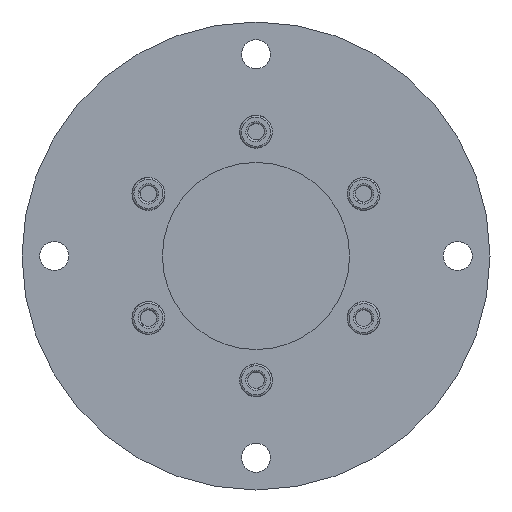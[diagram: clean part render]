
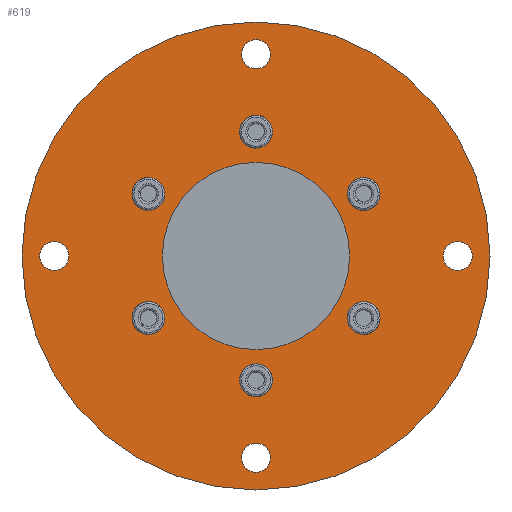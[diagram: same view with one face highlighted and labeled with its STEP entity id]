
A CAD part, front view. The second image highlights one B-rep face of the part: STEP entity #619.
In plain terms, the highlighted planar face has unit normal (0, -1, 0).
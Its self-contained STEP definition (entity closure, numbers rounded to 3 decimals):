
#18=CARTESIAN_POINT('',(28.242,3.0,19.25));
#19=VERTEX_POINT('',#18);
#26=CARTESIAN_POINT('',(35.892,3.0,14.833));
#27=VERTEX_POINT('',#26);
#28=CARTESIAN_POINT('',(33.342,3.0,19.25));
#29=DIRECTION('',(0.0,-1.0,0.0));
#30=DIRECTION('',(0.5,0.0,-0.866));
#31=AXIS2_PLACEMENT_3D('',#28,#29,#30);
#32=CIRCLE('',#31,5.1);
#33=EDGE_CURVE('no 1255',#19,#27,#32,.T.);
#35=CARTESIAN_POINT('',(38.442,3.0,19.25));
#36=VERTEX_POINT('',#35);
#37=CARTESIAN_POINT('',(33.342,3.0,19.25));
#38=DIRECTION('',(0.0,-1.0,0.0));
#39=DIRECTION('',(0.5,0.0,-0.866));
#40=AXIS2_PLACEMENT_3D('',#37,#38,#39);
#41=CIRCLE('',#40,5.1);
#42=EDGE_CURVE('no 1261',#27,#36,#41,.T.);
#78=CARTESIAN_POINT('',(28.242,3.0,-19.25));
#79=VERTEX_POINT('',#78);
#86=CARTESIAN_POINT('',(30.792,3.0,-23.667));
#87=VERTEX_POINT('',#86);
#88=CARTESIAN_POINT('',(33.342,3.0,-19.25));
#89=DIRECTION('',(0.0,-1.0,-0.0));
#90=DIRECTION('',(-0.5,0.0,-0.866));
#91=AXIS2_PLACEMENT_3D('',#88,#89,#90);
#92=CIRCLE('',#91,5.1);
#93=EDGE_CURVE('no 1295',#79,#87,#92,.T.);
#95=CARTESIAN_POINT('',(38.442,3.0,-19.25));
#96=VERTEX_POINT('',#95);
#97=CARTESIAN_POINT('',(33.342,3.0,-19.25));
#98=DIRECTION('',(0.0,-1.0,-0.0));
#99=DIRECTION('',(-0.5,0.0,-0.866));
#100=AXIS2_PLACEMENT_3D('',#97,#98,#99);
#101=CIRCLE('',#100,5.1);
#102=EDGE_CURVE('no 1301',#87,#96,#101,.T.);
#138=CARTESIAN_POINT('',(-5.1,3.0,-38.5));
#139=VERTEX_POINT('',#138);
#146=CARTESIAN_POINT('',(5.1,3.0,-38.5));
#147=VERTEX_POINT('',#146);
#148=CARTESIAN_POINT('',(0.0,3.0,-38.5));
#149=DIRECTION('',(0.0,-1.0,-0.0));
#150=DIRECTION('',(-1.0,0.0,-0.0));
#151=AXIS2_PLACEMENT_3D('',#148,#149,#150);
#152=CIRCLE('',#151,5.1);
#153=EDGE_CURVE('no 1335',#139,#147,#152,.T.);
#189=CARTESIAN_POINT('',(-38.442,3.0,-19.25));
#190=VERTEX_POINT('',#189);
#197=CARTESIAN_POINT('',(-28.242,3.0,-19.25));
#198=VERTEX_POINT('',#197);
#199=CARTESIAN_POINT('',(-33.342,3.0,-19.25));
#200=DIRECTION('',(0.0,-1.0,0.0));
#201=DIRECTION('',(-0.5,0.0,0.866));
#202=AXIS2_PLACEMENT_3D('',#199,#200,#201);
#203=CIRCLE('',#202,5.1);
#204=EDGE_CURVE('no 1369',#190,#198,#203,.T.);
#240=CARTESIAN_POINT('',(-38.442,3.0,19.25));
#241=VERTEX_POINT('',#240);
#248=CARTESIAN_POINT('',(-28.242,3.0,19.25));
#249=VERTEX_POINT('',#248);
#250=CARTESIAN_POINT('',(-33.342,3.0,19.25));
#251=DIRECTION('',(0.0,-1.0,0.0));
#252=DIRECTION('',(0.5,0.0,0.866));
#253=AXIS2_PLACEMENT_3D('',#250,#251,#252);
#254=CIRCLE('',#253,5.1);
#255=EDGE_CURVE('no 1403',#241,#249,#254,.T.);
#291=CARTESIAN_POINT('',(-5.1,3.0,38.5));
#292=VERTEX_POINT('',#291);
#299=CARTESIAN_POINT('',(5.1,3.0,38.5));
#300=VERTEX_POINT('',#299);
#301=CARTESIAN_POINT('',(0.0,3.0,38.5));
#302=DIRECTION('',(0.0,-1.0,0.0));
#303=DIRECTION('',(1.0,0.0,-0.0));
#304=AXIS2_PLACEMENT_3D('',#301,#302,#303);
#305=CIRCLE('',#304,5.1);
#306=EDGE_CURVE('no 1437',#292,#300,#305,.T.);
#384=CARTESIAN_POINT('',(-72.5,3.0,0.0));
#385=VERTEX_POINT('',#384);
#401=CARTESIAN_POINT('',(72.5,3.0,-0.0));
#402=VERTEX_POINT('',#401);
#409=CARTESIAN_POINT('',(0.0,3.0,0.0));
#410=DIRECTION('',(0.0,-1.0,0.0));
#411=DIRECTION('',(1.0,0.0,-0.0));
#412=AXIS2_PLACEMENT_3D('',#409,#410,#411);
#413=CIRCLE('',#412,72.5);
#414=EDGE_CURVE('no 1509',#385,#402,#413,.T.);
#424=ORIENTED_EDGE('',*,*,#33,.F.);
#425=CARTESIAN_POINT('',(33.342,3.0,19.25));
#426=DIRECTION('',(0.0,-1.0,0.0));
#427=DIRECTION('',(0.5,0.0,-0.866));
#428=AXIS2_PLACEMENT_3D('',#425,#426,#427);
#429=CIRCLE('',#428,5.1);
#430=EDGE_CURVE('no 1518',#36,#19,#429,.T.);
#431=ORIENTED_EDGE('',*,*,#430,.F.);
#432=ORIENTED_EDGE('',*,*,#42,.F.);
#433=EDGE_LOOP('',(#424,#431,#432));
#434=FACE_BOUND('',#433,.T.);
#435=ORIENTED_EDGE('',*,*,#93,.F.);
#436=CARTESIAN_POINT('',(33.342,3.0,-19.25));
#437=DIRECTION('',(0.0,-1.0,-0.0));
#438=DIRECTION('',(-0.5,0.0,-0.866));
#439=AXIS2_PLACEMENT_3D('',#436,#437,#438);
#440=CIRCLE('',#439,5.1);
#441=EDGE_CURVE('no 1527',#96,#79,#440,.T.);
#442=ORIENTED_EDGE('',*,*,#441,.F.);
#443=ORIENTED_EDGE('',*,*,#102,.F.);
#444=EDGE_LOOP('',(#435,#442,#443));
#445=FACE_BOUND('',#444,.T.);
#446=CARTESIAN_POINT('',(0.0,3.0,-38.5));
#447=DIRECTION('',(0.0,-1.0,-0.0));
#448=DIRECTION('',(-1.0,0.0,-0.0));
#449=AXIS2_PLACEMENT_3D('',#446,#447,#448);
#450=CIRCLE('',#449,5.1);
#451=EDGE_CURVE('no 1534',#147,#139,#450,.T.);
#452=ORIENTED_EDGE('',*,*,#451,.F.);
#453=ORIENTED_EDGE('',*,*,#153,.F.);
#454=EDGE_LOOP('',(#452,#453));
#455=FACE_BOUND('',#454,.T.);
#456=CARTESIAN_POINT('',(-35.892,3.0,-14.833));
#457=VERTEX_POINT('',#456);
#458=CARTESIAN_POINT('',(-33.342,3.0,-19.25));
#459=DIRECTION('',(0.0,-1.0,0.0));
#460=DIRECTION('',(-0.5,0.0,0.866));
#461=AXIS2_PLACEMENT_3D('',#458,#459,#460);
#462=CIRCLE('',#461,5.1);
#463=EDGE_CURVE('no 1543',#198,#457,#462,.T.);
#464=ORIENTED_EDGE('',*,*,#463,.F.);
#465=ORIENTED_EDGE('',*,*,#204,.F.);
#466=CARTESIAN_POINT('',(-33.342,3.0,-19.25));
#467=DIRECTION('',(0.0,-1.0,0.0));
#468=DIRECTION('',(-0.5,0.0,0.866));
#469=AXIS2_PLACEMENT_3D('',#466,#467,#468);
#470=CIRCLE('',#469,5.1);
#471=EDGE_CURVE('no 1549',#457,#190,#470,.T.);
#472=ORIENTED_EDGE('',*,*,#471,.F.);
#473=EDGE_LOOP('',(#464,#465,#472));
#474=FACE_BOUND('',#473,.T.);
#475=CARTESIAN_POINT('',(-30.792,3.0,23.667));
#476=VERTEX_POINT('',#475);
#477=CARTESIAN_POINT('',(-33.342,3.0,19.25));
#478=DIRECTION('',(0.0,-1.0,0.0));
#479=DIRECTION('',(0.5,0.0,0.866));
#480=AXIS2_PLACEMENT_3D('',#477,#478,#479);
#481=CIRCLE('',#480,5.1);
#482=EDGE_CURVE('no 1556',#249,#476,#481,.T.);
#483=ORIENTED_EDGE('',*,*,#482,.F.);
#484=ORIENTED_EDGE('',*,*,#255,.F.);
#485=CARTESIAN_POINT('',(-33.342,3.0,19.25));
#486=DIRECTION('',(0.0,-1.0,0.0));
#487=DIRECTION('',(0.5,0.0,0.866));
#488=AXIS2_PLACEMENT_3D('',#485,#486,#487);
#489=CIRCLE('',#488,5.1);
#490=EDGE_CURVE('no 1562',#476,#241,#489,.T.);
#491=ORIENTED_EDGE('',*,*,#490,.F.);
#492=EDGE_LOOP('',(#483,#484,#491));
#493=FACE_BOUND('',#492,.T.);
#494=ORIENTED_EDGE('',*,*,#306,.F.);
#495=CARTESIAN_POINT('',(0.0,3.0,38.5));
#496=DIRECTION('',(0.0,-1.0,0.0));
#497=DIRECTION('',(1.0,0.0,-0.0));
#498=AXIS2_PLACEMENT_3D('',#495,#496,#497);
#499=CIRCLE('',#498,5.1);
#500=EDGE_CURVE('no 1569',#300,#292,#499,.T.);
#501=ORIENTED_EDGE('',*,*,#500,.F.);
#502=EDGE_LOOP('',(#494,#501));
#503=FACE_BOUND('',#502,.T.);
#504=CARTESIAN_POINT('',(58.0,3.0,0.0));
#505=VERTEX_POINT('',#504);
#506=CARTESIAN_POINT('',(67.0,3.0,0.0));
#507=VERTEX_POINT('',#506);
#508=CARTESIAN_POINT('',(62.5,3.0,0.0));
#509=DIRECTION('',(0.0,-1.0,0.0));
#510=DIRECTION('',(1.0,0.0,-0.0));
#511=AXIS2_PLACEMENT_3D('',#508,#509,#510);
#512=CIRCLE('',#511,4.5);
#513=EDGE_CURVE('no 1578',#505,#507,#512,.T.);
#514=ORIENTED_EDGE('',*,*,#513,.F.);
#515=CARTESIAN_POINT('',(62.5,3.0,0.0));
#516=DIRECTION('',(0.0,-1.0,0.0));
#517=DIRECTION('',(1.0,0.0,-0.0));
#518=AXIS2_PLACEMENT_3D('',#515,#516,#517);
#519=CIRCLE('',#518,4.5);
#520=EDGE_CURVE('no 1582',#507,#505,#519,.T.);
#521=ORIENTED_EDGE('',*,*,#520,.F.);
#522=EDGE_LOOP('',(#514,#521));
#523=FACE_BOUND('',#522,.T.);
#524=CARTESIAN_POINT('',(-4.5,3.0,-62.5));
#525=VERTEX_POINT('',#524);
#526=CARTESIAN_POINT('',(4.5,3.0,-62.5));
#527=VERTEX_POINT('',#526);
#528=CARTESIAN_POINT('',(0.0,3.0,-62.5));
#529=DIRECTION('',(0.0,-1.0,0.0));
#530=DIRECTION('',(1.0,0.0,-0.0));
#531=AXIS2_PLACEMENT_3D('',#528,#529,#530);
#532=CIRCLE('',#531,4.5);
#533=EDGE_CURVE('no 1591',#525,#527,#532,.T.);
#534=ORIENTED_EDGE('',*,*,#533,.F.);
#535=CARTESIAN_POINT('',(0.0,3.0,-62.5));
#536=DIRECTION('',(0.0,-1.0,0.0));
#537=DIRECTION('',(1.0,0.0,-0.0));
#538=AXIS2_PLACEMENT_3D('',#535,#536,#537);
#539=CIRCLE('',#538,4.5);
#540=EDGE_CURVE('no 1595',#527,#525,#539,.T.);
#541=ORIENTED_EDGE('',*,*,#540,.F.);
#542=EDGE_LOOP('',(#534,#541));
#543=FACE_BOUND('',#542,.T.);
#544=CARTESIAN_POINT('',(-67.0,3.0,-0.0));
#545=VERTEX_POINT('',#544);
#546=CARTESIAN_POINT('',(-58.0,3.0,-0.0));
#547=VERTEX_POINT('',#546);
#548=CARTESIAN_POINT('',(-62.5,3.0,-0.0));
#549=DIRECTION('',(0.0,-1.0,0.0));
#550=DIRECTION('',(1.0,0.0,-0.0));
#551=AXIS2_PLACEMENT_3D('',#548,#549,#550);
#552=CIRCLE('',#551,4.5);
#553=EDGE_CURVE('no 1604',#545,#547,#552,.T.);
#554=ORIENTED_EDGE('',*,*,#553,.F.);
#555=CARTESIAN_POINT('',(-62.5,3.0,-0.0));
#556=DIRECTION('',(0.0,-1.0,0.0));
#557=DIRECTION('',(1.0,0.0,-0.0));
#558=AXIS2_PLACEMENT_3D('',#555,#556,#557);
#559=CIRCLE('',#558,4.5);
#560=EDGE_CURVE('no 1608',#547,#545,#559,.T.);
#561=ORIENTED_EDGE('',*,*,#560,.F.);
#562=EDGE_LOOP('',(#554,#561));
#563=FACE_BOUND('',#562,.T.);
#564=CARTESIAN_POINT('',(-4.5,3.0,62.5));
#565=VERTEX_POINT('',#564);
#566=CARTESIAN_POINT('',(4.5,3.0,62.5));
#567=VERTEX_POINT('',#566);
#568=CARTESIAN_POINT('',(0.0,3.0,62.5));
#569=DIRECTION('',(0.0,-1.0,0.0));
#570=DIRECTION('',(1.0,0.0,-0.0));
#571=AXIS2_PLACEMENT_3D('',#568,#569,#570);
#572=CIRCLE('',#571,4.5);
#573=EDGE_CURVE('no 1617',#565,#567,#572,.T.);
#574=ORIENTED_EDGE('',*,*,#573,.F.);
#575=CARTESIAN_POINT('',(0.0,3.0,62.5));
#576=DIRECTION('',(0.0,-1.0,0.0));
#577=DIRECTION('',(1.0,0.0,-0.0));
#578=AXIS2_PLACEMENT_3D('',#575,#576,#577);
#579=CIRCLE('',#578,4.5);
#580=EDGE_CURVE('no 1621',#567,#565,#579,.T.);
#581=ORIENTED_EDGE('',*,*,#580,.F.);
#582=EDGE_LOOP('',(#574,#581));
#583=FACE_BOUND('',#582,.T.);
#584=CARTESIAN_POINT('',(-29.0,3.0,0.0));
#585=VERTEX_POINT('',#584);
#586=CARTESIAN_POINT('',(29.0,3.0,-0.0));
#587=VERTEX_POINT('',#586);
#588=CARTESIAN_POINT('',(0.0,3.0,0.0));
#589=DIRECTION('',(0.0,-1.0,0.0));
#590=DIRECTION('',(1.0,0.0,-0.0));
#591=AXIS2_PLACEMENT_3D('',#588,#589,#590);
#592=CIRCLE('',#591,29.0);
#593=EDGE_CURVE('no 1630',#585,#587,#592,.T.);
#594=ORIENTED_EDGE('',*,*,#593,.F.);
#595=CARTESIAN_POINT('',(0.0,3.0,0.0));
#596=DIRECTION('',(0.0,-1.0,0.0));
#597=DIRECTION('',(1.0,0.0,-0.0));
#598=AXIS2_PLACEMENT_3D('',#595,#596,#597);
#599=CIRCLE('',#598,29.0);
#600=EDGE_CURVE('no 1634',#587,#585,#599,.T.);
#601=ORIENTED_EDGE('',*,*,#600,.F.);
#602=EDGE_LOOP('',(#594,#601));
#603=FACE_BOUND('',#602,.T.);
#604=CARTESIAN_POINT('',(0.0,3.0,0.0));
#605=DIRECTION('',(0.0,-1.0,0.0));
#606=DIRECTION('',(1.0,0.0,-0.0));
#607=AXIS2_PLACEMENT_3D('',#604,#605,#606);
#608=CIRCLE('',#607,72.5);
#609=EDGE_CURVE('no 1639',#402,#385,#608,.T.);
#610=ORIENTED_EDGE('',*,*,#609,.T.);
#611=ORIENTED_EDGE('',*,*,#414,.T.);
#612=EDGE_LOOP('',(#610,#611));
#613=FACE_OUTER_BOUND('',#612,.T.);
#614=CARTESIAN_POINT('',(0.0,3.0,0.0));
#615=DIRECTION('',(0.0,-1.0,0.0));
#616=DIRECTION('',(1.0,0.0,-0.0));
#617=AXIS2_PLACEMENT_3D('',#614,#615,#616);
#618=PLANE('',#617);
#619=ADVANCED_FACE('no 1511',(#434,#445,#455,#474,#493,#503,#523,#543,#563,#583,
    #603,#613),#618,.T.);
